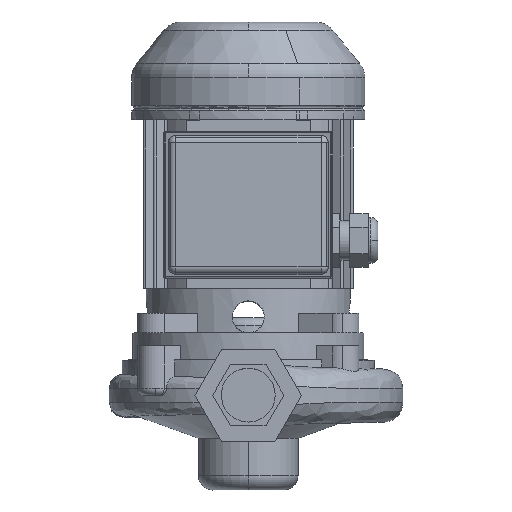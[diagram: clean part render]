
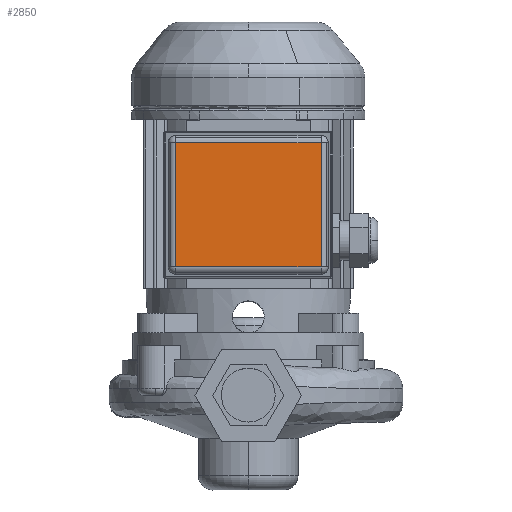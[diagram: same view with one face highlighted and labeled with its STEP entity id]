
A CAD part, top view. The second image highlights one B-rep face of the part: STEP entity #2850.
In plain terms, the highlighted planar face has unit normal (0, 0, 1).
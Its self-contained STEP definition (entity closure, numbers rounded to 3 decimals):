
#2850=ADVANCED_FACE('',(#6267),#6268,.T.);
#3104=EDGE_CURVE('',#6672,#6676,#6677,.T.);
#3110=EDGE_CURVE('',#6682,#6672,#6686,.T.);
#3116=EDGE_CURVE('',#6691,#6682,#6695,.T.);
#3146=EDGE_CURVE('',#6676,#6691,#6740,.T.);
#6267=FACE_OUTER_BOUND('',#10874,.T.);
#6268=PLANE('',#10875);
#6672=VERTEX_POINT('',#11351);
#6676=VERTEX_POINT('',#11356);
#6677=LINE('',#11357,#11358);
#6682=VERTEX_POINT('',#11365);
#6686=LINE('',#11370,#11371);
#6691=VERTEX_POINT('',#11378);
#6695=LINE('',#11383,#11384);
#6740=LINE('',#11448,#11449);
#10874=EDGE_LOOP('',(#19844,#19845,#19846,#19847));
#10875=AXIS2_PLACEMENT_3D('',#19848,#19849,#19850);
#11351=CARTESIAN_POINT('',(-69.18,-84.78,379.66));
#11356=CARTESIAN_POINT('',(-69.18,-14.78,379.66));
#11357=CARTESIAN_POINT('',(-69.18,-84.78,379.66));
#11358=VECTOR('',#20591,1.0);
#11365=CARTESIAN_POINT('',(12.82,-84.78,379.66));
#11370=CARTESIAN_POINT('',(12.82,-84.78,379.66));
#11371=VECTOR('',#20598,1.0);
#11378=CARTESIAN_POINT('',(12.82,-14.78,379.66));
#11383=CARTESIAN_POINT('',(12.82,-14.78,379.66));
#11384=VECTOR('',#20605,1.0);
#11448=CARTESIAN_POINT('',(-69.18,-14.78,379.66));
#11449=VECTOR('',#20640,1.0);
#19844=ORIENTED_EDGE('',*,*,#3116,.F.);
#19845=ORIENTED_EDGE('',*,*,#3146,.F.);
#19846=ORIENTED_EDGE('',*,*,#3104,.F.);
#19847=ORIENTED_EDGE('',*,*,#3110,.F.);
#19848=CARTESIAN_POINT('',(-73.18,-10.78,379.66));
#19849=DIRECTION('',(0.0,0.0,1.0));
#19850=DIRECTION('',(1.0,0.0,0.0));
#20591=DIRECTION('',(0.0,1.0,0.0));
#20598=DIRECTION('',(-1.0,0.0,0.0));
#20605=DIRECTION('',(0.0,-1.0,0.0));
#20640=DIRECTION('',(1.0,0.0,0.0));
